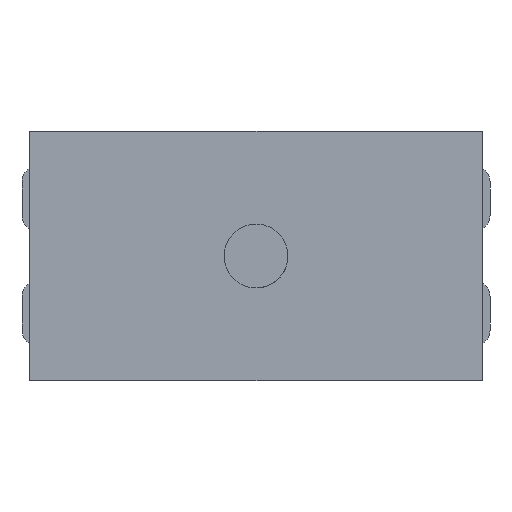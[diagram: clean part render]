
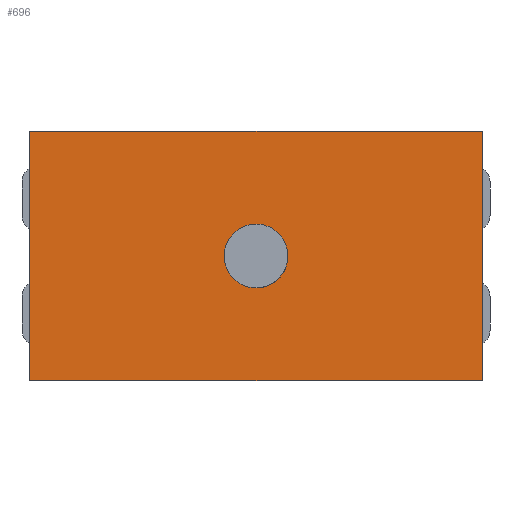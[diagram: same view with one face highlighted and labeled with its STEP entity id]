
A CAD part, front view. The second image highlights one B-rep face of the part: STEP entity #696.
In plain terms, the highlighted free-form (B-spline) face has degree [1, 1] with [2, 2] control points.
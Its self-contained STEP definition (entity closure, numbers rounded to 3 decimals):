
#256=CARTESIAN_POINT('',(2.037,-18.191,0.234));
#257=VERTEX_POINT('',#256);
#263=CARTESIAN_POINT('',(0.0,-18.191,2.05));
#264=VERTEX_POINT('',#263);
#265=CARTESIAN_POINT('',(2.037,-18.191,0.234));
#266=CARTESIAN_POINT('',(1.828,-18.191,2.05));
#267=CARTESIAN_POINT('',(0.0,-18.191,2.05));
#275=(BOUNDED_CURVE()B_SPLINE_CURVE(2,(#265,#266,#267),.UNSPECIFIED.,.F.,.U.)B_SPLINE_CURVE_WITH_KNOTS((3,3),(0.27,0.5),.UNSPECIFIED.)CURVE()GEOMETRIC_REPRESENTATION_ITEM()RATIONAL_B_SPLINE_CURVE((0.957,0.73,1.0))REPRESENTATION_ITEM(''));
#276=EDGE_CURVE('',#257,#264,#275,.T.);
#278=CARTESIAN_POINT('',(-2.046,-18.191,0.125));
#279=VERTEX_POINT('',#278);
#280=CARTESIAN_POINT('',(0.0,-18.191,2.05));
#281=CARTESIAN_POINT('',(-1.928,-18.191,2.05));
#282=CARTESIAN_POINT('',(-2.046,-18.191,0.125));
#290=(BOUNDED_CURVE()B_SPLINE_CURVE(2,(#280,#281,#282),.UNSPECIFIED.,.F.,.U.)B_SPLINE_CURVE_WITH_KNOTS((3,3),(0.5,0.739),.UNSPECIFIED.)CURVE()GEOMETRIC_REPRESENTATION_ITEM()RATIONAL_B_SPLINE_CURVE((1.0,0.72,0.976))REPRESENTATION_ITEM(''));
#291=EDGE_CURVE('',#264,#279,#290,.T.);
#386=CARTESIAN_POINT('',(0.0,-18.191,-2.05));
#387=VERTEX_POINT('',#386);
#388=CARTESIAN_POINT('',(-2.046,-18.191,0.125));
#389=CARTESIAN_POINT('',(-2.05,-18.191,0.063));
#390=CARTESIAN_POINT('',(-2.05,-18.191,0.));
#391=CARTESIAN_POINT('',(-2.05,-18.191,-2.05));
#392=CARTESIAN_POINT('',(0.0,-18.191,-2.05));
#400=(BOUNDED_CURVE()B_SPLINE_CURVE(2,(#388,#389,#390,#391,#392),.UNSPECIFIED.,.F.,.U.)B_SPLINE_CURVE_WITH_KNOTS((3,2,3),(0.739,0.75,1.0),.UNSPECIFIED.)CURVE()GEOMETRIC_REPRESENTATION_ITEM()RATIONAL_B_SPLINE_CURVE((0.976,0.988,1.0,0.707,1.0))REPRESENTATION_ITEM(''));
#401=EDGE_CURVE('',#279,#387,#400,.T.);
#403=CARTESIAN_POINT('',(0.0,-18.191,-2.05));
#404=CARTESIAN_POINT('',(2.05,-18.191,-2.05));
#405=CARTESIAN_POINT('',(2.05,-18.191,0.));
#406=CARTESIAN_POINT('',(2.05,-18.191,0.117));
#407=CARTESIAN_POINT('',(2.037,-18.191,0.234));
#415=(BOUNDED_CURVE()B_SPLINE_CURVE(2,(#403,#404,#405,#406,#407),.UNSPECIFIED.,.F.,.U.)B_SPLINE_CURVE_WITH_KNOTS((3,2,3),(0.0,0.25,0.27),.UNSPECIFIED.)CURVE()GEOMETRIC_REPRESENTATION_ITEM()RATIONAL_B_SPLINE_CURVE((1.0,0.707,1.0,0.977,0.957))REPRESENTATION_ITEM(''));
#416=EDGE_CURVE('',#387,#257,#415,.T.);
#563=CARTESIAN_POINT('',(14.5,-18.191,-8.));
#564=VERTEX_POINT('',#563);
#570=CARTESIAN_POINT('',(-14.5,-18.191,-8.));
#571=VERTEX_POINT('',#570);
#572=CARTESIAN_POINT('',(14.5,-18.191,-8.));
#573=CARTESIAN_POINT('',(-14.5,-18.191,-8.));
#574=QUASI_UNIFORM_CURVE('',1,(#572,#573),.UNSPECIFIED.,.F.,.U.);
#575=EDGE_CURVE('',#564,#571,#574,.T.);
#597=CARTESIAN_POINT('',(14.5,-18.191,8.0));
#598=VERTEX_POINT('',#597);
#604=CARTESIAN_POINT('',(14.5,-18.191,8.0));
#605=CARTESIAN_POINT('',(14.5,-18.191,-8.));
#606=QUASI_UNIFORM_CURVE('',1,(#604,#605),.UNSPECIFIED.,.F.,.U.);
#607=EDGE_CURVE('',#598,#564,#606,.T.);
#625=CARTESIAN_POINT('',(-14.5,-18.191,8.0));
#626=VERTEX_POINT('',#625);
#632=CARTESIAN_POINT('',(-14.5,-18.191,8.0));
#633=CARTESIAN_POINT('',(14.5,-18.191,8.0));
#634=QUASI_UNIFORM_CURVE('',1,(#632,#633),.UNSPECIFIED.,.F.,.U.);
#635=EDGE_CURVE('',#626,#598,#634,.T.);
#652=CARTESIAN_POINT('',(-14.5,-18.191,-8.));
#653=CARTESIAN_POINT('',(-14.5,-18.191,8.0));
#654=QUASI_UNIFORM_CURVE('',1,(#652,#653),.UNSPECIFIED.,.F.,.U.);
#655=EDGE_CURVE('',#571,#626,#654,.T.);
#679=CARTESIAN_POINT('',(-15.949,-18.191,8.799));
#680=CARTESIAN_POINT('',(15.949,-18.191,8.799));
#681=CARTESIAN_POINT('',(-15.949,-18.191,-8.799));
#682=CARTESIAN_POINT('',(15.949,-18.191,-8.799));
#683=B_SPLINE_SURFACE_WITH_KNOTS('',1,1,((#679,#681),(#680,#682)),.UNSPECIFIED.,.F.,.F.,.U.,(2,2),(2,2),(0.0,31.897),(0.0,17.598),.UNSPECIFIED.);
#684=ORIENTED_EDGE('',*,*,#655,.F.);
#685=ORIENTED_EDGE('',*,*,#575,.F.);
#686=ORIENTED_EDGE('',*,*,#607,.F.);
#687=ORIENTED_EDGE('',*,*,#635,.F.);
#688=EDGE_LOOP('',(#684,#685,#686,#687));
#689=FACE_OUTER_BOUND('',#688,.T.);
#690=ORIENTED_EDGE('',*,*,#291,.F.);
#691=ORIENTED_EDGE('',*,*,#276,.F.);
#692=ORIENTED_EDGE('',*,*,#416,.F.);
#693=ORIENTED_EDGE('',*,*,#401,.F.);
#694=EDGE_LOOP('',(#690,#691,#692,#693));
#695=FACE_BOUND('',#694,.T.);
#696=ADVANCED_FACE('',(#689,#695),#683,.F.);
